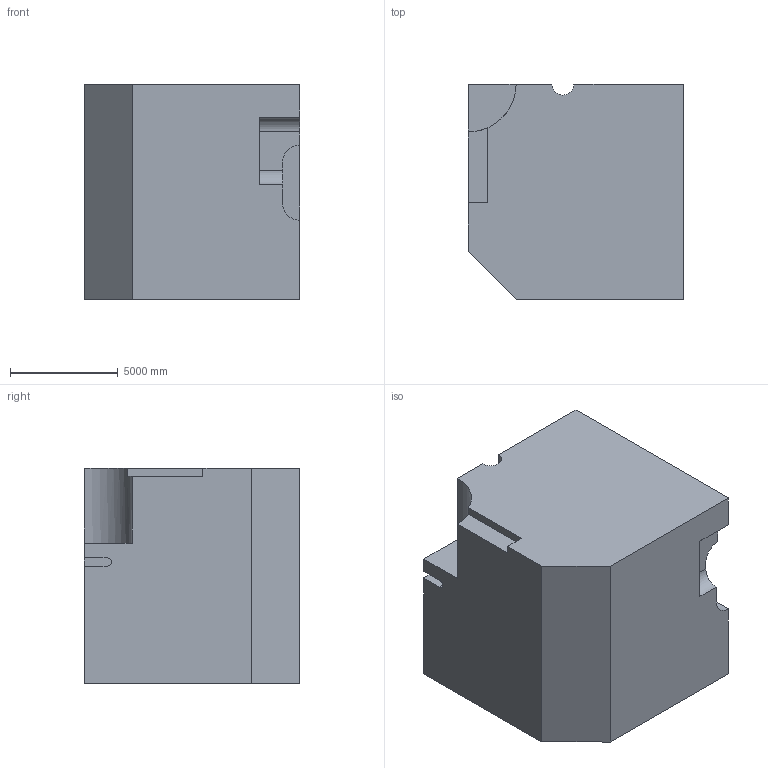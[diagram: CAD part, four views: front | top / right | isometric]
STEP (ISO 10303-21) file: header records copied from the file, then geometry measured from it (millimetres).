
FILE_DESCRIPTION (( 'STEP AP203' ), '1' );
FILE_NAME ('186.STEP', '2022-09-06T14:48:25', ( 'user' ), ( '' ), 'SwSTEP 2.0', 'SolidWorks 2021', '' );
FILE_SCHEMA (( 'CONFIG_CONTROL_DESIGN' ));
Length unit declared in the file: centimetre
Products named in the file (1): 186
Bounding box: 10000 x 10000 x 10000 mm (x, y, z)
Volume: 913022712816.1 mm3; surface area: 647033380 mm2
Topology: 1 solids, 1 shells, 35 faces, 90 edges, 60 vertices
Faces by surface type: plane 22, cylinder 13
Entity records: 1148 total; most frequent: DIRECTION 189, CARTESIAN_POINT 186, ORIENTED_EDGE 180, EDGE_CURVE 90, AXIS2_PLACEMENT_3D 63, LINE 63, VECTOR 63, VERTEX_POINT 60
